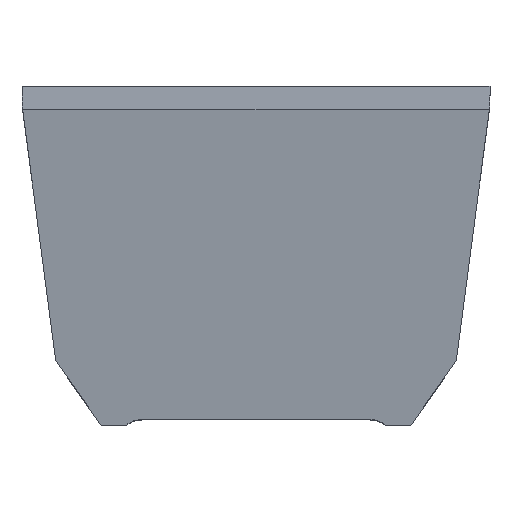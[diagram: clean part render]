
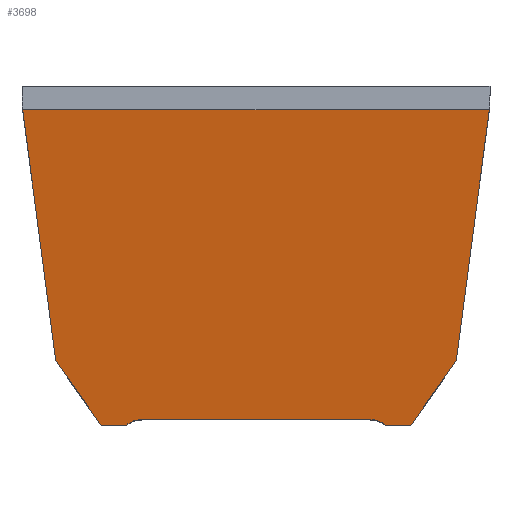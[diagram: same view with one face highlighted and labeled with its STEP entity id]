
A CAD part, top view. The second image highlights one B-rep face of the part: STEP entity #3698.
In plain terms, the highlighted planar face has unit normal (0, -0.147, 0.989).
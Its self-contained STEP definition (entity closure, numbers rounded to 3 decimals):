
#180 = LINE ( 'NONE', #3184, #187 ) ;
#182 = LINE ( 'NONE', #2082, #190 ) ;
#187 = VECTOR ( 'NONE', #3182, 1000. ) ;
#190 = VECTOR ( 'NONE', #3285, 1000. ) ;
#200 = LINE ( 'NONE', #2142, #210 ) ;
#210 = VECTOR ( 'NONE', #2125, 1000. ) ;
#257 = VECTOR ( 'NONE', #2379, 1000. ) ;
#258 = LINE ( 'NONE', #2382, #257 ) ;
#260 = VECTOR ( 'NONE', #2387, 1000. ) ;
#272 = LINE ( 'NONE', #2393, #260 ) ;
#274 = VECTOR ( 'NONE', #2423, 1000. ) ;
#275 = LINE ( 'NONE', #2426, #274 ) ;
#276 = VECTOR ( 'NONE', #2429, 1000. ) ;
#277 = LINE ( 'NONE', #2431, #276 ) ;
#325 = VECTOR ( 'NONE', #2559, 1000. ) ;
#328 = LINE ( 'NONE', #2569, #325 ) ;
#380 = ORIENTED_EDGE ( 'NONE', *, *, #1115, .F. ) ;
#381 = ORIENTED_EDGE ( 'NONE', *, *, #988, .F. ) ;
#382 = ORIENTED_EDGE ( 'NONE', *, *, #966, .F. ) ;
#383 = ORIENTED_EDGE ( 'NONE', *, *, #1087, .F. ) ;
#384 = ORIENTED_EDGE ( 'NONE', *, *, #1128, .F. ) ;
#385 = ORIENTED_EDGE ( 'NONE', *, *, #1086, .T. ) ;
#386 = ORIENTED_EDGE ( 'NONE', *, *, #990, .F. ) ;
#387 = ORIENTED_EDGE ( 'NONE', *, *, #1157, .F. ) ;
#388 = ORIENTED_EDGE ( 'NONE', *, *, #1230, .F. ) ;
#389 = ORIENTED_EDGE ( 'NONE', *, *, #1063, .T. ) ;
#390 = ORIENTED_EDGE ( 'NONE', *, *, #1229, .F. ) ;
#391 = ORIENTED_EDGE ( 'NONE', *, *, #1062, .F. ) ;
#835 = EDGE_LOOP ( 'NONE', ( #391, #390, #389, #388, #387, #386, #385, #384, #383, #382, #381, #380 ) ) ;
#966 = EDGE_CURVE ( 'NONE', #2986, #2948, #1691, .T. ) ;
#988 = EDGE_CURVE ( 'NONE', #3140, #2986, #328, .T. ) ;
#990 = EDGE_CURVE ( 'NONE', #3041, #3049, #1688, .T. ) ;
#1062 = EDGE_CURVE ( 'NONE', #3121, #3127, #277, .T. ) ;
#1063 = EDGE_CURVE ( 'NONE', #3101, #3082, #275, .T. ) ;
#1086 = EDGE_CURVE ( 'NONE', #3041, #3034, #272, .T. ) ;
#1087 = EDGE_CURVE ( 'NONE', #2948, #2990, #258, .T. ) ;
#1115 = EDGE_CURVE ( 'NONE', #3127, #3140, #1690, .T. ) ;
#1128 = EDGE_CURVE ( 'NONE', #2990, #3034, #200, .T. ) ;
#1138 = AXIS2_PLACEMENT_3D ( 'NONE', #1485, #1477, #1476 ) ;
#1157 = EDGE_CURVE ( 'NONE', #3049, #3062, #182, .T. ) ;
#1229 = EDGE_CURVE ( 'NONE', #3101, #3121, #180, .T. ) ;
#1230 = EDGE_CURVE ( 'NONE', #3062, #3082, #1692, .T. ) ;
#1476 = DIRECTION ( 'NONE',  ( 0., -0.989, -0.147 ) ) ;
#1477 = DIRECTION ( 'NONE',  ( 0., 0.147, -0.989 ) ) ;
#1485 = CARTESIAN_POINT ( 'NONE',  ( -184.028, 56.725, 30.75 ) ) ;
#1488 = PLANE ( 'NONE',  #1138 ) ;
#1688 =( BOUNDED_CURVE ( )  B_SPLINE_CURVE ( 3, ( #2562, #2553, #2551, #2549 ),
 .UNSPECIFIED., .F., .T. ) 
 B_SPLINE_CURVE_WITH_KNOTS ( ( 4, 4 ),
 ( 5.61, 6.283 ),
 .UNSPECIFIED. ) 
 CURVE ( )  GEOMETRIC_REPRESENTATION_ITEM ( )  RATIONAL_B_SPLINE_CURVE ( ( 1., 0.963, 0.963, 1. ) ) 
 REPRESENTATION_ITEM ( '' )  );
#1690 =( BOUNDED_CURVE ( )  B_SPLINE_CURVE ( 3, ( #2148, #2139, #2137, #2135 ),
 .UNSPECIFIED., .F., .T. ) 
 B_SPLINE_CURVE_WITH_KNOTS ( ( 4, 4 ),
 ( 4.581, 4.616 ),
 .UNSPECIFIED. ) 
 CURVE ( )  GEOMETRIC_REPRESENTATION_ITEM ( )  RATIONAL_B_SPLINE_CURVE ( ( 1., 1., 1., 1. ) ) 
 REPRESENTATION_ITEM ( '' )  );
#1691 =( BOUNDED_CURVE ( )  B_SPLINE_CURVE ( 3, ( #2809, #2599, #2598, #2594 ),
 .UNSPECIFIED., .F., .F. ) 
 B_SPLINE_CURVE_WITH_KNOTS ( ( 4, 4 ),
 ( 1.667, 1.702 ),
 .UNSPECIFIED. ) 
 CURVE ( )  GEOMETRIC_REPRESENTATION_ITEM ( )  RATIONAL_B_SPLINE_CURVE ( ( 1., 1., 1., 1. ) ) 
 REPRESENTATION_ITEM ( '' )  );
#1692 =( BOUNDED_CURVE ( )  B_SPLINE_CURVE ( 3, ( #3189, #3178, #3176, #3175 ),
 .UNSPECIFIED., .F., .F. ) 
 B_SPLINE_CURVE_WITH_KNOTS ( ( 4, 4 ),
 ( 0., 0.673 ),
 .UNSPECIFIED. ) 
 CURVE ( )  GEOMETRIC_REPRESENTATION_ITEM ( )  RATIONAL_B_SPLINE_CURVE ( ( 1., 0.963, 0.963, 1. ) ) 
 REPRESENTATION_ITEM ( '' )  );
#1836 = FACE_OUTER_BOUND ( 'NONE', #835, .T. ) ;
#2082 = CARTESIAN_POINT ( 'NONE',  ( -22., -3.21, 21.868 ) ) ;
#2125 = DIRECTION ( 'NONE',  ( -0.569, -0.813, -0.121 ) ) ;
#2135 = CARTESIAN_POINT ( 'NONE',  ( -45.11, 56.725, 30.75 ) ) ;
#2137 = CARTESIAN_POINT ( 'NONE',  ( -45.077, 56.383, 30.699 ) ) ;
#2139 = CARTESIAN_POINT ( 'NONE',  ( -45.038, 56.041, 30.649 ) ) ;
#2142 = CARTESIAN_POINT ( 'NONE',  ( 38.099, 7.317, 23.428 ) ) ;
#2148 = CARTESIAN_POINT ( 'NONE',  ( -44.993, 55.7, 30.598 ) ) ;
#2379 = DIRECTION ( 'NONE',  ( -0.129, -0.981, -0.145 ) ) ;
#2382 = CARTESIAN_POINT ( 'NONE',  ( 44.686, 53.369, 30.253 ) ) ;
#2387 = DIRECTION ( 'NONE',  ( 1., 0., 0. ) ) ;
#2393 = CARTESIAN_POINT ( 'NONE',  ( -184.028, -4.3, 21.706 ) ) ;
#2423 = DIRECTION ( 'NONE',  ( 1., 0., 0. ) ) ;
#2426 = CARTESIAN_POINT ( 'NONE',  ( -184.028, -4.3, 21.706 ) ) ;
#2429 = DIRECTION ( 'NONE',  ( -0.129, 0.981, 0.145 ) ) ;
#2431 = CARTESIAN_POINT ( 'NONE',  ( -44.686, 53.369, 30.253 ) ) ;
#2549 = CARTESIAN_POINT ( 'NONE',  ( 22., -3.21, 21.868 ) ) ;
#2551 = CARTESIAN_POINT ( 'NONE',  ( 23.144, -3.21, 21.868 ) ) ;
#2553 = CARTESIAN_POINT ( 'NONE',  ( 24.223, -3.587, 21.812 ) ) ;
#2559 = DIRECTION ( 'NONE',  ( 1., 0., 0. ) ) ;
#2562 = CARTESIAN_POINT ( 'NONE',  ( 25.117, -4.3, 21.706 ) ) ;
#2569 = CARTESIAN_POINT ( 'NONE',  ( -15.25, 56.725, 30.75 ) ) ;
#2594 = CARTESIAN_POINT ( 'NONE',  ( 44.993, 55.7, 30.598 ) ) ;
#2598 = CARTESIAN_POINT ( 'NONE',  ( 45.038, 56.041, 30.649 ) ) ;
#2599 = CARTESIAN_POINT ( 'NONE',  ( 45.077, 56.383, 30.699 ) ) ;
#2809 = CARTESIAN_POINT ( 'NONE',  ( 45.11, 56.725, 30.75 ) ) ;
#2933 = CARTESIAN_POINT ( 'NONE',  ( -45.11, 56.725, 30.75 ) ) ;
#2940 = CARTESIAN_POINT ( 'NONE',  ( -44.993, 55.7, 30.598 ) ) ;
#2943 = CARTESIAN_POINT ( 'NONE',  ( -38.738, 8.23, 23.563 ) ) ;
#2948 = VERTEX_POINT ( 'NONE', #3022 ) ;
#2953 = CARTESIAN_POINT ( 'NONE',  ( -29.972, -4.3, 21.706 ) ) ;
#2961 = CARTESIAN_POINT ( 'NONE',  ( -25.117, -4.3, 21.706 ) ) ;
#2969 = CARTESIAN_POINT ( 'NONE',  ( -22., -3.21, 21.868 ) ) ;
#2973 = CARTESIAN_POINT ( 'NONE',  ( 22., -3.21, 21.868 ) ) ;
#2976 = CARTESIAN_POINT ( 'NONE',  ( 25.117, -4.3, 21.706 ) ) ;
#2979 = CARTESIAN_POINT ( 'NONE',  ( 29.972, -4.3, 21.706 ) ) ;
#2986 = VERTEX_POINT ( 'NONE', #3004 ) ;
#2990 = VERTEX_POINT ( 'NONE', #3001 ) ;
#3001 = CARTESIAN_POINT ( 'NONE',  ( 38.738, 8.23, 23.563 ) ) ;
#3004 = CARTESIAN_POINT ( 'NONE',  ( 45.11, 56.725, 30.75 ) ) ;
#3022 = CARTESIAN_POINT ( 'NONE',  ( 44.993, 55.7, 30.598 ) ) ;
#3034 = VERTEX_POINT ( 'NONE', #2979 ) ;
#3041 = VERTEX_POINT ( 'NONE', #2976 ) ;
#3049 = VERTEX_POINT ( 'NONE', #2973 ) ;
#3062 = VERTEX_POINT ( 'NONE', #2969 ) ;
#3082 = VERTEX_POINT ( 'NONE', #2961 ) ;
#3101 = VERTEX_POINT ( 'NONE', #2953 ) ;
#3121 = VERTEX_POINT ( 'NONE', #2943 ) ;
#3127 = VERTEX_POINT ( 'NONE', #2940 ) ;
#3140 = VERTEX_POINT ( 'NONE', #2933 ) ;
#3175 = CARTESIAN_POINT ( 'NONE',  ( -25.117, -4.3, 21.706 ) ) ;
#3176 = CARTESIAN_POINT ( 'NONE',  ( -24.223, -3.587, 21.812 ) ) ;
#3178 = CARTESIAN_POINT ( 'NONE',  ( -23.144, -3.21, 21.868 ) ) ;
#3182 = DIRECTION ( 'NONE',  ( -0.569, 0.813, 0.121 ) ) ;
#3184 = CARTESIAN_POINT ( 'NONE',  ( -38.099, 7.317, 23.428 ) ) ;
#3189 = CARTESIAN_POINT ( 'NONE',  ( -22., -3.21, 21.868 ) ) ;
#3285 = DIRECTION ( 'NONE',  ( -1., 0., 0. ) ) ;
#3698 = ADVANCED_FACE ( 'NONE', ( #1836 ), #1488, .F. ) ;
